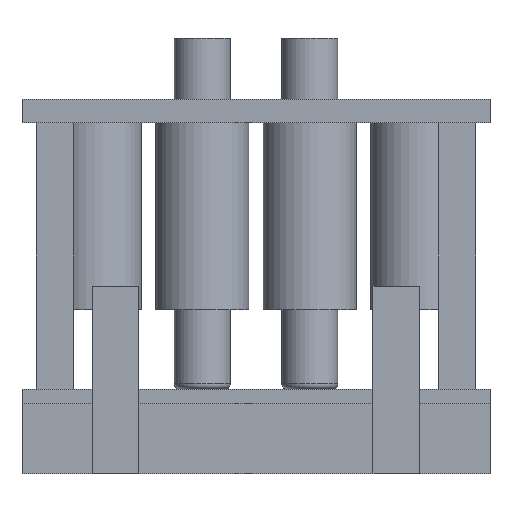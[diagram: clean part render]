
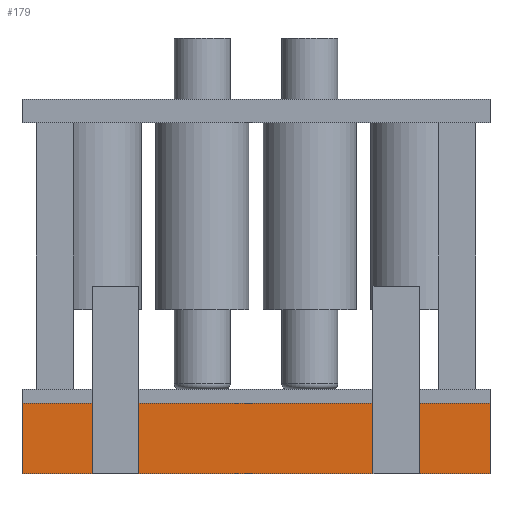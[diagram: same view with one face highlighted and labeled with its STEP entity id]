
A CAD part, front view. The second image highlights one B-rep face of the part: STEP entity #179.
In plain terms, the highlighted planar face has unit normal (0, -1, 0).
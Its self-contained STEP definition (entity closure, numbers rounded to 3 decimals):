
#63 = EDGE_CURVE('',#64,#66,#68,.T.);
#64 = VERTEX_POINT('',#65);
#65 = CARTESIAN_POINT('',(-50.,-30.,0.));
#66 = VERTEX_POINT('',#67);
#67 = CARTESIAN_POINT('',(-50.,-30.,15.));
#68 = SURFACE_CURVE('',#69,(#73,#85),.PCURVE_S1.);
#69 = LINE('',#70,#71);
#70 = CARTESIAN_POINT('',(-50.,-30.,0.));
#71 = VECTOR('',#72,1.);
#72 = DIRECTION('',(0.,0.,1.));
#73 = PCURVE('',#74,#79);
#74 = PLANE('',#75);
#75 = AXIS2_PLACEMENT_3D('',#76,#77,#78);
#76 = CARTESIAN_POINT('',(-50.,-30.,0.));
#77 = DIRECTION('',(1.,0.,0.));
#78 = DIRECTION('',(0.,0.,1.));
#79 = DEFINITIONAL_REPRESENTATION('',(#80),#84);
#80 = LINE('',#81,#82);
#81 = CARTESIAN_POINT('',(0.,0.));
#82 = VECTOR('',#83,1.);
#83 = DIRECTION('',(1.,0.));
#84 = ( GEOMETRIC_REPRESENTATION_CONTEXT(2) 
PARAMETRIC_REPRESENTATION_CONTEXT() REPRESENTATION_CONTEXT('2D SPACE',''
  ) );
#85 = PCURVE('',#86,#91);
#86 = PLANE('',#87);
#87 = AXIS2_PLACEMENT_3D('',#88,#89,#90);
#88 = CARTESIAN_POINT('',(-50.,-30.,0.));
#89 = DIRECTION('',(0.,1.,0.));
#90 = DIRECTION('',(0.,-0.,1.));
#91 = DEFINITIONAL_REPRESENTATION('',(#92),#96);
#92 = LINE('',#93,#94);
#93 = CARTESIAN_POINT('',(0.,0.));
#94 = VECTOR('',#95,1.);
#95 = DIRECTION('',(1.,0.));
#96 = ( GEOMETRIC_REPRESENTATION_CONTEXT(2) 
PARAMETRIC_REPRESENTATION_CONTEXT() REPRESENTATION_CONTEXT('2D SPACE',''
  ) );
#114 = PLANE('',#115);
#115 = AXIS2_PLACEMENT_3D('',#116,#117,#118);
#116 = CARTESIAN_POINT('',(-50.,-30.,0.));
#117 = DIRECTION('',(0.,0.,1.));
#118 = DIRECTION('',(1.,0.,-0.));
#168 = PLANE('',#169);
#169 = AXIS2_PLACEMENT_3D('',#170,#171,#172);
#170 = CARTESIAN_POINT('',(-50.,-30.,15.));
#171 = DIRECTION('',(0.,0.,1.));
#172 = DIRECTION('',(1.,0.,-0.));
#179 = ADVANCED_FACE('',(#180),#86,.F.);
#180 = FACE_BOUND('',#181,.F.);
#181 = EDGE_LOOP('',(#182,#205,#206,#229));
#182 = ORIENTED_EDGE('',*,*,#183,.F.);
#183 = EDGE_CURVE('',#64,#184,#186,.T.);
#184 = VERTEX_POINT('',#185);
#185 = CARTESIAN_POINT('',(50.,-30.,0.));
#186 = SURFACE_CURVE('',#187,(#191,#198),.PCURVE_S1.);
#187 = LINE('',#188,#189);
#188 = CARTESIAN_POINT('',(-50.,-30.,0.));
#189 = VECTOR('',#190,1.);
#190 = DIRECTION('',(1.,0.,0.));
#191 = PCURVE('',#86,#192);
#192 = DEFINITIONAL_REPRESENTATION('',(#193),#197);
#193 = LINE('',#194,#195);
#194 = CARTESIAN_POINT('',(0.,0.));
#195 = VECTOR('',#196,1.);
#196 = DIRECTION('',(0.,1.));
#197 = ( GEOMETRIC_REPRESENTATION_CONTEXT(2) 
PARAMETRIC_REPRESENTATION_CONTEXT() REPRESENTATION_CONTEXT('2D SPACE',''
  ) );
#198 = PCURVE('',#114,#199);
#199 = DEFINITIONAL_REPRESENTATION('',(#200),#204);
#200 = LINE('',#201,#202);
#201 = CARTESIAN_POINT('',(0.,0.));
#202 = VECTOR('',#203,1.);
#203 = DIRECTION('',(1.,0.));
#204 = ( GEOMETRIC_REPRESENTATION_CONTEXT(2) 
PARAMETRIC_REPRESENTATION_CONTEXT() REPRESENTATION_CONTEXT('2D SPACE',''
  ) );
#205 = ORIENTED_EDGE('',*,*,#63,.T.);
#206 = ORIENTED_EDGE('',*,*,#207,.T.);
#207 = EDGE_CURVE('',#66,#208,#210,.T.);
#208 = VERTEX_POINT('',#209);
#209 = CARTESIAN_POINT('',(50.,-30.,15.));
#210 = SURFACE_CURVE('',#211,(#215,#222),.PCURVE_S1.);
#211 = LINE('',#212,#213);
#212 = CARTESIAN_POINT('',(-50.,-30.,15.));
#213 = VECTOR('',#214,1.);
#214 = DIRECTION('',(1.,0.,0.));
#215 = PCURVE('',#86,#216);
#216 = DEFINITIONAL_REPRESENTATION('',(#217),#221);
#217 = LINE('',#218,#219);
#218 = CARTESIAN_POINT('',(15.,0.));
#219 = VECTOR('',#220,1.);
#220 = DIRECTION('',(0.,1.));
#221 = ( GEOMETRIC_REPRESENTATION_CONTEXT(2) 
PARAMETRIC_REPRESENTATION_CONTEXT() REPRESENTATION_CONTEXT('2D SPACE',''
  ) );
#222 = PCURVE('',#168,#223);
#223 = DEFINITIONAL_REPRESENTATION('',(#224),#228);
#224 = LINE('',#225,#226);
#225 = CARTESIAN_POINT('',(0.,0.));
#226 = VECTOR('',#227,1.);
#227 = DIRECTION('',(1.,0.));
#228 = ( GEOMETRIC_REPRESENTATION_CONTEXT(2) 
PARAMETRIC_REPRESENTATION_CONTEXT() REPRESENTATION_CONTEXT('2D SPACE',''
  ) );
#229 = ORIENTED_EDGE('',*,*,#230,.F.);
#230 = EDGE_CURVE('',#184,#208,#231,.T.);
#231 = SURFACE_CURVE('',#232,(#236,#243),.PCURVE_S1.);
#232 = LINE('',#233,#234);
#233 = CARTESIAN_POINT('',(50.,-30.,0.));
#234 = VECTOR('',#235,1.);
#235 = DIRECTION('',(0.,0.,1.));
#236 = PCURVE('',#86,#237);
#237 = DEFINITIONAL_REPRESENTATION('',(#238),#242);
#238 = LINE('',#239,#240);
#239 = CARTESIAN_POINT('',(0.,100.));
#240 = VECTOR('',#241,1.);
#241 = DIRECTION('',(1.,0.));
#242 = ( GEOMETRIC_REPRESENTATION_CONTEXT(2) 
PARAMETRIC_REPRESENTATION_CONTEXT() REPRESENTATION_CONTEXT('2D SPACE',''
  ) );
#243 = PCURVE('',#244,#249);
#244 = PLANE('',#245);
#245 = AXIS2_PLACEMENT_3D('',#246,#247,#248);
#246 = CARTESIAN_POINT('',(50.,-30.,0.));
#247 = DIRECTION('',(1.,0.,0.));
#248 = DIRECTION('',(0.,0.,1.));
#249 = DEFINITIONAL_REPRESENTATION('',(#250),#254);
#250 = LINE('',#251,#252);
#251 = CARTESIAN_POINT('',(0.,0.));
#252 = VECTOR('',#253,1.);
#253 = DIRECTION('',(1.,0.));
#254 = ( GEOMETRIC_REPRESENTATION_CONTEXT(2) 
PARAMETRIC_REPRESENTATION_CONTEXT() REPRESENTATION_CONTEXT('2D SPACE',''
  ) );
